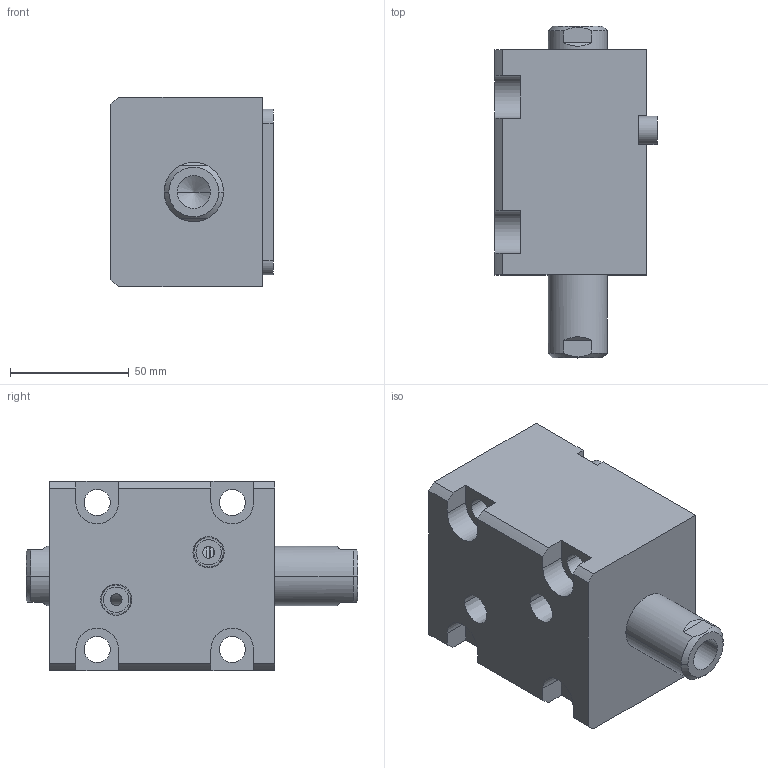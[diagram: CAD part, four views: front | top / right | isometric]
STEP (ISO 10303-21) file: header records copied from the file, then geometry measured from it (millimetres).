
FILE_DESCRIPTION (( 'STEP AP214' ), '1' );
FILE_NAME ('chtb-lw40x25_asm.STEP', '2018-06-05T00:53:58', ( 'Windows' ), ( 'Microsoft' ), 'SwSTEP 2.0', 'SolidWorks 2015', '' );
FILE_SCHEMA (( 'AUTOMOTIVE_DESIGN' ));
Length unit declared in the file: millimetre
Products named in the file (5): CHTB-SW40X25NHSG; CHTB-SD40QG; CHTB-LW40X25NBT; CHTB-LA40PJ; chtb-lw40x25_asm
Assembly tree (4 placements, depth 2):
  chtb-lw40x25_asm
    CHTB-LA40PJ
    CHTB-LW40X25NBT
    CHTB-SD40QG
    CHTB-SW40X25NHSG
Bounding box: 68.5 x 140 x 80 mm (x, y, z)
Volume: 445850.7 mm3; surface area: 86519 mm2
Topology: 4 solids, 4 shells, 172 faces, 462 edges, 304 vertices
Faces by surface type: cylinder 77, plane 52, cone 17, bspline 14, torus 12
Entity records: 10654 total; most frequent: CARTESIAN_POINT 6188, ORIENTED_EDGE 904, DIRECTION 853, EDGE_CURVE 452, AXIS2_PLACEMENT_3D 340, VERTEX_POINT 304, EDGE_LOOP 204, CIRCLE 175
